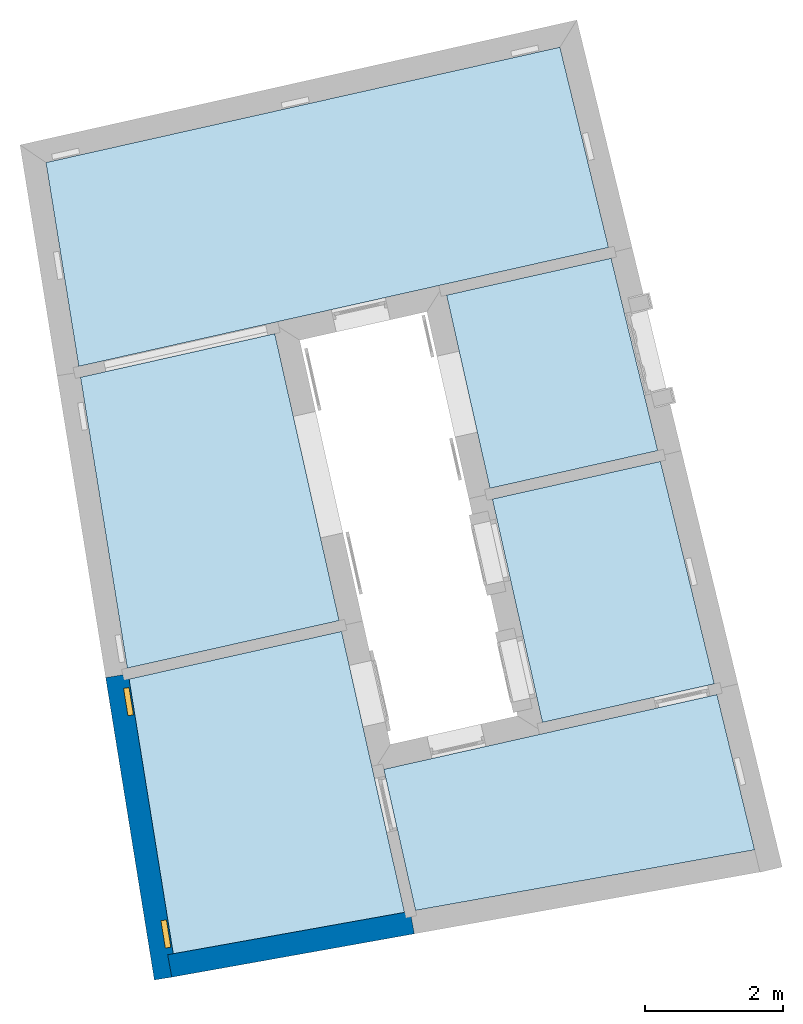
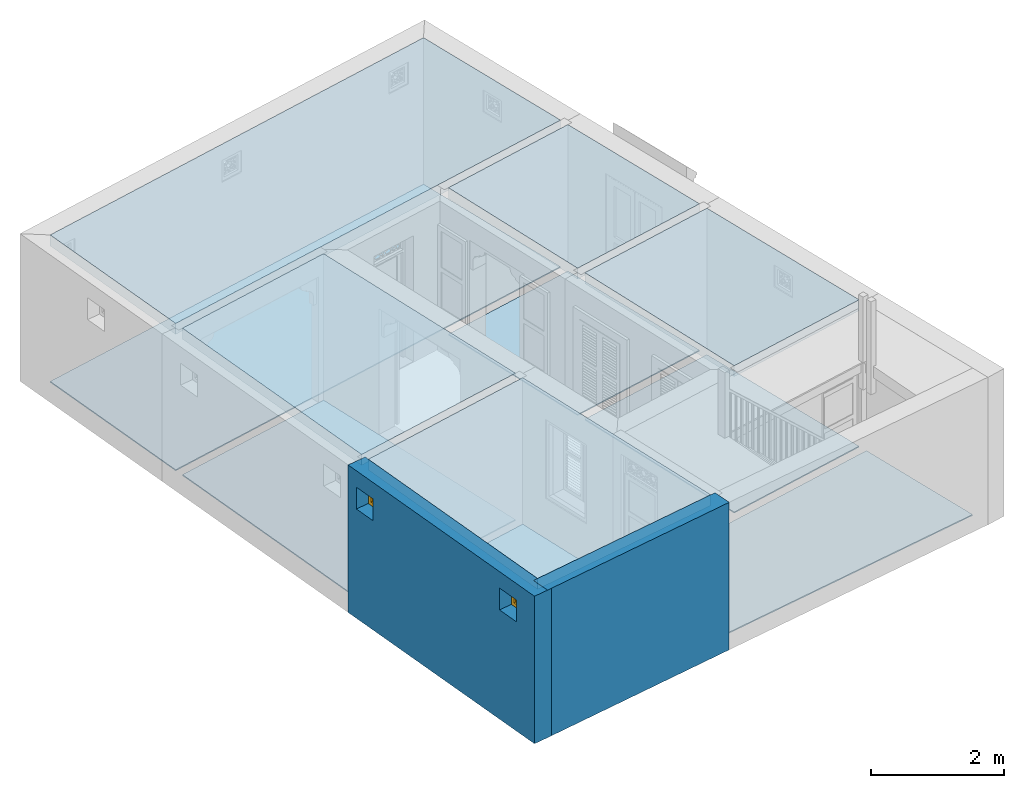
# One storey, part 1 of 13: 11 slabs, 2 walls, 2 windows, 2 openings.
"""IFC4 building model written with IfcOpenShell, lengths in metres."""

from ifc_helpers import new_model, si_unit, frame, origin, origin_with_axes, place, context, subcontext, project, spatial, polyline, outline, extrude, faceted_brep, source, transform, mapped, material, layer, layer_set, layer_usage, type_object, type_shapes, element, fill, save


model = new_model("IFC4")

# Units and contexts
model_context = context("Model", 3, world=origin_with_axes())
body_context = subcontext(model_context, "Body", "Model", "MODEL_VIEW")
ifc_project = project(units=[si_unit("PLANEANGLEUNIT", "RADIAN"), si_unit("MASSUNIT", "GRAM", prefix="KILO"), si_unit("FORCEUNIT", "NEWTON", prefix="KILO"), si_unit("LENGTHUNIT", "METRE"), si_unit("AREAUNIT", "SQUARE_METRE"), si_unit("VOLUMEUNIT", "CUBIC_METRE")], contexts=[model_context, model_context])

# Site, building, storey
site_placement = place(None, origin_with_axes())
site = spatial("IfcSite", under=ifc_project, at=site_placement, Name="Site plot-10", CompositionType="ELEMENT")
building_placement = place(None, origin_with_axes())
building = spatial("IfcBuilding", under=site, at=building_placement, Name="Building plot-10", CompositionType="ELEMENT")
storey_placement = place(None, origin_with_axes())
storey = spatial("IfcBuildingStorey", under=building, at=storey_placement, Name="plot-10 0", CompositionType="ELEMENT", Elevation=0.0)

# Slabs
slab_1_placement = place(storey_placement, frame((-19.1238204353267, 17.6396673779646, 2.5)))
element("IfcSlab", 1, at=slab_1_placement, inside=storey, Name="My Slab", ObjectType="Slab", PredefinedType="FLOOR", context=body_context, shape_type="SweptSolid", body=[
    extrude(outline(polyline([(0.0, 0.0), (0.626059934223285, -2.79032100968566), (3.05138066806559, -2.24615561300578), (2.3773217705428, 0.533395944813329), (0.0, 0.0)])), origin_with_axes(), (0.0, 0.0, 1.0), 0.2),
])
slab_2_placement = place(storey_placement, frame((-19.1238204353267, 17.6396673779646, 0.0)))
element("IfcSlab", 2, at=slab_2_placement, inside=storey, Name="My Slab", ObjectType="Slab", PredefinedType="FLOOR", context=body_context, shape_type="SweptSolid", body=[
    extrude(outline(polyline([(0.0, 0.0), (0.626059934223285, -2.79032100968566), (3.05138066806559, -2.24615561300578), (2.3773217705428, 0.533395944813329), (0.0, 0.0)])), origin_with_axes(), (0.0, 0.0, 1.0), 0.02),
])
slab_3_placement = place(storey_placement, frame((-18.4627324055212, 14.6932277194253, 2.5)))
element("IfcSlab", 3, at=slab_3_placement, inside=storey, Name="My Slab", ObjectType="Slab", PredefinedType="FLOOR", context=body_context, shape_type="SweptSolid", body=[
    extrude(outline(polyline([(0.0, 0.0), (0.723864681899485, -3.22623237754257), (3.20736844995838, -2.66901254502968), (2.4280062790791, 0.544767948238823), (0.0, 0.0)])), origin_with_axes(), (0.0, 0.0, 1.0), 0.2),
])
slab_4_placement = place(storey_placement, frame((-18.4627324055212, 14.6932277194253, 0.0)))
element("IfcSlab", 4, at=slab_4_placement, inside=storey, Name="My Slab", ObjectType="Slab", PredefinedType="FLOOR", context=body_context, shape_type="SweptSolid", body=[
    extrude(outline(polyline([(0.0, 0.0), (0.723864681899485, -3.22623237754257), (3.20736844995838, -2.66901254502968), (2.4280062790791, 0.544767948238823), (0.0, 0.0)])), origin_with_axes(), (0.0, 0.0, 1.0), 0.02),
])
slab_5_placement = place(storey_placement, frame((-20.676451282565, 12.9376014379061, 2.5)))
element("IfcSlab", 5, at=slab_5_placement, inside=storey, Name="My Slab", ObjectType="Slab", PredefinedType="FLOOR", context=body_context, shape_type="SweptSolid", body=[
    extrude(outline(polyline([(0.0, 0.0), (-0.930015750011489, 4.14503842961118), (-3.73667917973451, 3.51531177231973), (-3.06064099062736, -0.686711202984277), (0.0, 0.0)])), origin_with_axes(), (0.0, 0.0, 1.0), 0.2),
])
slab_6_placement = place(storey_placement, frame((-20.676451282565, 12.9376014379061, 0.0)))
element("IfcSlab", 6, at=slab_6_placement, inside=storey, Name="My Slab", ObjectType="Slab", PredefinedType="FLOOR", context=body_context, shape_type="SweptSolid", body=[
    extrude(outline(polyline([(0.0, 0.0), (-0.930015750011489, 4.14503842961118), (-3.73667917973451, 3.51531177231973), (-3.06064099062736, -0.686711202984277), (0.0, 0.0)])), origin_with_axes(), (0.0, 0.0, 1.0), 0.02),
])
slab_7_placement = place(storey_placement, frame((-23.7116299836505, 12.0926253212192, 2.5)))
element("IfcSlab", 7, at=slab_7_placement, inside=storey, Name="My Slab", ObjectType="Slab", PredefinedType="FLOOR", context=body_context, shape_type="SweptSolid", body=[
    extrude(outline(polyline([(0.0, 0.0), (0.638415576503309, -3.96817363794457), (3.98102425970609, -3.37061505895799), (3.07020679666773, 0.688857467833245), (0.0, 0.0)])), origin_with_axes(), (0.0, 0.0, 1.0), 0.2),
])
slab_8_placement = place(storey_placement, frame((-23.7116299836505, 12.0926253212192, 0.0)))
element("IfcSlab", 8, at=slab_8_placement, inside=storey, Name="My Slab", ObjectType="Slab", PredefinedType="FLOOR", context=body_context, shape_type="SweptSolid", body=[
    extrude(outline(polyline([(0.0, 0.0), (0.638415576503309, -3.96817363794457), (3.98102425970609, -3.37061505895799), (3.07020679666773, 0.688857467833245), (0.0, 0.0)])), origin_with_axes(), (0.0, 0.0, 1.0), 0.02),
])
slab_9_placement = place(storey_placement, frame((-20.0303675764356, 10.788877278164, 0.0)))
element("IfcSlab", 9, at=slab_9_placement, inside=storey, Name="My Slab", ObjectType="Slab", PredefinedType="FLOOR", context=body_context, shape_type="SweptSolid", body=[
    extrude(outline(polyline([(0.0, 0.0), (0.45741612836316, -2.03868314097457), (5.35658152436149, -1.16285872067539), (4.81271726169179, 1.07982179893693), (0.0, 0.0)])), origin_with_axes(), (0.0, 0.0, 1.0), 0.02),
])
slab_10_placement = place(storey_placement, frame((-16.7842123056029, 18.3285794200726, 2.5)))
element("IfcSlab", 10, at=slab_10_placement, inside=storey, Name="My Slab", ObjectType="Slab", PredefinedType="FLOOR", context=body_context, shape_type="SweptSolid", body=[
    extrude(outline(polyline([(0.0, 0.0), (-0.70172100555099, 2.89361912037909), (-8.12814598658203, 1.22736383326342), (-7.65438044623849, -1.71740129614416), (0.0, 0.0)])), origin_with_axes(), (0.0, 0.0, 1.0), 0.2),
])
slab_11_placement = place(storey_placement, frame((-16.7842123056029, 18.3285794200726, 0.0)))
element("IfcSlab", 11, at=slab_11_placement, inside=storey, Name="My Slab", ObjectType="Slab", PredefinedType="FLOOR", context=body_context, shape_type="SweptSolid", body=[
    extrude(outline(polyline([(0.0, 0.0), (-0.70172100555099, 2.89361912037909), (-8.12814598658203, 1.22736383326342), (-7.65438044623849, -1.71740129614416), (0.0, 0.0)])), origin_with_axes(), (0.0, 0.0, 1.0), 0.02),
])

# Wall, openings, windows
ifc_material_1 = material(Name="Masonry")
ifc_layer_1 = layer(ifc_material_1, 0.33, ventilated=False)
ifc_layer_set_1 = layer_set([ifc_layer_1], Name="exterior_0.08_0.25")
ifc_layer_usage_1 = layer_usage(ifc_layer_set_1, "AXIS2", "POSITIVE", -0.25)
wall_type_1 = type_object("IfcWallType", Name="exterior_0.08_0.25", PredefinedType="SOLIDWALL", material=ifc_layer_set_1)
wall_1_placement = place(storey_placement, frame((-23.8025668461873, 12.1542108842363, 0.0), z_axis=(0.0, 0.0, 1.0), x_axis=(0.158841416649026, -0.987304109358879, 0.0)))
wall_1 = element("IfcWall", 12, at=wall_1_placement, inside=storey, type_object=wall_type_1, material=ifc_layer_usage_1, Name="exterior", context=body_context, shape_type="SweptSolid", body=[
    extrude(outline(polyline([(9.64131280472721e-16, 0.0799999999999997), (-1.82228109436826e-15, -0.249999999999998), (4.42585217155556, -0.249999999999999), (4.42585217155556, 0.0799999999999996), (9.64131280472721e-16, 0.0799999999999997)])), origin_with_axes(), (0.0, 0.0, 1.0), 2.7),
])
opening_1_placement = place(wall_1_placement, frame((0.195852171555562, 0.0, 2.0)))
opening_1 = element("IfcOpeningElement", 13, at=opening_1_placement, cuts=wall_1, Name="My Opening", ObjectType="Opening", context=body_context, shape_type="SweptSolid", body=[
    extrude(outline(polyline([(0.0, -0.270000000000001), (0.400000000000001, -0.270000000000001), (0.400000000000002, 1.1), (6.66133814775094e-16, 1.1), (0.0, -0.270000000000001)])), origin_with_axes(), (0.0, 0.0, 1.0), 0.4),
])
opening_2_placement = place(wall_1_placement, frame((3.59585217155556, 0.0, 2.0)))
opening_2 = element("IfcOpeningElement", 14, at=opening_2_placement, cuts=wall_1, Name="My Opening", ObjectType="Opening", context=body_context, shape_type="SweptSolid", body=[
    extrude(outline(polyline([(0.0, -0.27), (0.400000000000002, -0.27), (0.400000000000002, 1.1), (1.33226762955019e-15, 1.1), (0.0, -0.27)])), origin_with_axes(), (0.0, 0.0, 1.0), 0.4),
])
window_type = type_object("IfcWindowType", Name="barred_window", PartitioningType="DOUBLE_PANEL_HORIZONTAL", PredefinedType="NOTDEFINED")
shared_shape = source(origin(), body_context, "Body", "Brep", [
    faceted_brep([(0.4, 0.25, 0.4), (0.0, 0.25, 0.4), (0.06, 0.25, 0.34), (0.34, 0.25, 0.34), (0.06, 0.33, 0.34), (0.34, 0.33, 0.34), (0.34, 0.25, 0.06), (0.4, 0.25, 0.0), (0.4, 0.33, 0.4), (0.0, 0.33, 0.4), (0.0, 0.25, 0.0), (0.06, 0.25, 0.06), (0.06, 0.33, 0.06), (0.34, 0.33, 0.06), (0.4, 0.33, 0.0), (0.0, 0.33, 0.0), (0.136152, 0.28, 0.08), (0.08, 0.28, 0.08), (0.06, 0.28, 0.06), (0.136152, 0.28, 0.06), (0.136152, 0.29, 0.08), (0.08, 0.29, 0.08), (0.06, 0.28, 0.136152), (0.08, 0.28, 0.136152), (0.06, 0.29, 0.06), (0.136152, 0.29, 0.06), (0.170294, 0.28, 0.08), (0.170294, 0.28, 0.06), (0.136152, 0.28, 0.136152), (0.136152, 0.29, 0.136152), (0.08, 0.29, 0.136152), (0.06, 0.29, 0.136152), (0.08, 0.28, 0.170294), (0.06, 0.28, 0.170294), (0.170294, 0.29, 0.06), (0.229706, 0.28, 0.08), (0.229706, 0.28, 0.06), (0.156152, 0.28, 0.094142), (0.156152, 0.28, 0.136152), (0.185858, 0.28, 0.123848), (0.185858, 0.29, 0.123848), (0.156152, 0.29, 0.094142), (0.156152, 0.29, 0.136152), (0.229706, 0.29, 0.08), (0.170294, 0.29, 0.08), (0.2, 0.28, 0.109706), (0.2, 0.29, 0.109706), (0.06, 0.29, 0.170294), (0.094142, 0.28, 0.156152), (0.08, 0.28, 0.229706), (0.06, 0.28, 0.229706), (0.229706, 0.29, 0.06), (0.263848, 0.28, 0.08), (0.263848, 0.28, 0.06), (0.156152, 0.28, 0.156152), (0.136152, 0.28, 0.156152), (0.173553, 0.28, 0.136152), (0.173553, 0.29, 0.136152), (0.156152, 0.29, 0.156152), (0.136152, 0.29, 0.156152), (0.094142, 0.29, 0.156152), (0.08, 0.29, 0.170294), (0.06, 0.29, 0.229706), (0.123848, 0.28, 0.185858), (0.109706, 0.28, 0.2), (0.08, 0.29, 0.229706), (0.08, 0.28, 0.263848), (0.06, 0.28, 0.263848), (0.263848, 0.29, 0.06), (0.2, 0.28, 0.13799), (0.214142, 0.28, 0.123848), (0.34, 0.28, 0.06), (0.32, 0.28, 0.08), (0.181838, 0.28, 0.156152), (0.136152, 0.28, 0.173553), (0.156152, 0.28, 0.181838), (0.181838, 0.29, 0.156152), (0.2, 0.29, 0.13799), (0.214142, 0.29, 0.123848), (0.136152, 0.29, 0.173553), (0.156152, 0.29, 0.181838), (0.243848, 0.28, 0.094142), (0.243848, 0.29, 0.094142), (0.263848, 0.28, 0.136152), (0.263848, 0.29, 0.08), (0.263848, 0.29, 0.136152), (0.32, 0.29, 0.08), (0.243848, 0.28, 0.136152), (0.243848, 0.29, 0.136152), (0.06, 0.29, 0.263848), (0.123848, 0.29, 0.185858), (0.13799, 0.28, 0.2), (0.123848, 0.28, 0.214142), (0.109706, 0.29, 0.2), (0.094142, 0.28, 0.243848), (0.08, 0.28, 0.32), (0.06, 0.28, 0.34), (0.34, 0.29, 0.06), (0.218162, 0.28, 0.156152), (0.226447, 0.28, 0.136152), (0.34, 0.28, 0.229706), (0.32, 0.28, 0.229706), (0.32, 0.28, 0.170294), (0.32, 0.28, 0.136152), (0.218162, 0.29, 0.156152), (0.226447, 0.29, 0.136152), (0.13799, 0.29, 0.2), (0.32, 0.29, 0.136152), (0.08, 0.29, 0.263848), (0.06, 0.29, 0.34), (0.136152, 0.28, 0.226447), (0.156152, 0.28, 0.218162), (0.094142, 0.29, 0.243848), (0.123848, 0.29, 0.214142), (0.136152, 0.28, 0.243848), (0.136152, 0.28, 0.263848), (0.08, 0.29, 0.32), (0.136152, 0.28, 0.34), (0.136152, 0.28, 0.32), (0.34, 0.29, 0.229706), (0.243848, 0.28, 0.156152), (0.263848, 0.28, 0.156152), (0.34, 0.28, 0.263848), (0.32, 0.28, 0.263848), (0.32, 0.29, 0.229706), (0.32, 0.29, 0.170294), (0.290294, 0.28, 0.2), (0.276152, 0.28, 0.185858), (0.305858, 0.28, 0.156152), (0.243848, 0.29, 0.156152), (0.263848, 0.29, 0.156152), (0.305858, 0.29, 0.156152), (0.276152, 0.29, 0.185858), (0.290294, 0.29, 0.2), (0.136152, 0.29, 0.34), (0.136152, 0.29, 0.226447), (0.156152, 0.29, 0.218162), (0.156152, 0.28, 0.243848), (0.136152, 0.29, 0.243848), (0.156152, 0.28, 0.263848), (0.136152, 0.29, 0.263848), (0.136152, 0.29, 0.32), (0.170294, 0.28, 0.32), (0.170294, 0.28, 0.34), (0.34, 0.29, 0.263848), (0.243848, 0.28, 0.181838), (0.263848, 0.28, 0.173553), (0.34, 0.28, 0.34), (0.32, 0.28, 0.32), (0.305858, 0.28, 0.243848), (0.276152, 0.28, 0.214142), (0.26201, 0.28, 0.2), (0.243848, 0.29, 0.181838), (0.263848, 0.29, 0.173553), (0.26201, 0.29, 0.2), (0.276152, 0.29, 0.214142), (0.32, 0.29, 0.263848), (0.170294, 0.29, 0.34), (0.156152, 0.29, 0.243848), (0.173553, 0.28, 0.263848), (0.181838, 0.28, 0.243848), (0.156152, 0.28, 0.305858), (0.229706, 0.28, 0.32), (0.229706, 0.28, 0.34), (0.34, 0.29, 0.34), (0.263848, 0.28, 0.34), (0.263848, 0.28, 0.32), (0.32, 0.29, 0.32), (0.263848, 0.28, 0.263848), (0.263848, 0.28, 0.243848), (0.305858, 0.29, 0.243848), (0.263848, 0.28, 0.226447), (0.243848, 0.28, 0.218162), (0.243848, 0.29, 0.218162), (0.263848, 0.29, 0.226447), (0.156152, 0.29, 0.263848), (0.170294, 0.29, 0.32), (0.229706, 0.29, 0.34), (0.181838, 0.29, 0.243848), (0.173553, 0.29, 0.263848), (0.185858, 0.28, 0.276152), (0.2, 0.28, 0.26201), (0.156152, 0.29, 0.305858), (0.229706, 0.29, 0.32), (0.263848, 0.29, 0.34), (0.263848, 0.29, 0.32), (0.263848, 0.29, 0.263848), (0.243848, 0.28, 0.243848), (0.243848, 0.28, 0.263848), (0.263848, 0.29, 0.243848), (0.243848, 0.29, 0.243848), (0.2, 0.29, 0.26201), (0.185858, 0.29, 0.276152), (0.214142, 0.28, 0.276152), (0.218162, 0.28, 0.243848), (0.226447, 0.28, 0.263848), (0.243848, 0.28, 0.305858), (0.2, 0.28, 0.290294), (0.2, 0.29, 0.290294), (0.243848, 0.29, 0.263848), (0.218162, 0.29, 0.243848), (0.214142, 0.29, 0.276152), (0.226447, 0.29, 0.263848), (0.243848, 0.29, 0.305858)], [[[0, 1, 2, 3]], [[3, 2, 4, 5]], [[3, 6, 7, 0]], [[1, 0, 8, 9]], [[1, 10, 11, 2]], [[2, 11, 12, 4]], [[9, 8, 5, 4]], [[6, 3, 5, 13]], [[6, 11, 10, 7]], [[0, 7, 14, 8]], [[10, 1, 9, 15]], [[11, 6, 13, 12]], [[4, 12, 15, 9]], [[8, 14, 13, 5]], [[7, 10, 15, 14]], [[12, 13, 14, 15]], [[16, 17, 18, 19]], [[17, 16, 20, 21]], [[22, 18, 17, 23]], [[19, 18, 24, 25]], [[26, 16, 19, 27]], [[16, 28, 29, 20]], [[21, 20, 25, 24]], [[23, 17, 21, 30]], [[18, 22, 31, 24]], [[23, 32, 33, 22]], [[27, 19, 25, 34]], [[35, 26, 27, 36]], [[28, 16, 37, 38]], [[37, 39, 40, 41]], [[38, 37, 41, 42]], [[20, 29, 42, 41]], [[26, 35, 43, 44]], [[45, 26, 44, 46]], [[20, 44, 34, 25]], [[28, 23, 30, 29]], [[24, 31, 30, 21]], [[22, 33, 47, 31]], [[48, 32, 23]], [[32, 49, 50, 33]], [[36, 27, 34, 51]], [[39, 37, 26, 45]], [[52, 35, 36, 53]], [[38, 54, 55, 28]], [[39, 56, 57, 40]], [[41, 40, 46, 44]], [[56, 38, 42, 57]], [[58, 42, 29, 59]], [[35, 45, 46, 43]], [[44, 43, 51, 34]], [[23, 28, 55, 48]], [[29, 30, 60, 59]], [[61, 30, 31, 47]], [[33, 50, 62, 47]], [[48, 63, 64, 32]], [[49, 32, 61, 65]], [[49, 66, 67, 50]], [[53, 36, 51, 68]], [[69, 39, 45, 70]], [[53, 71, 72, 52]], [[73, 54, 38, 56]], [[74, 55, 54, 75]], [[56, 39, 69, 73]], [[40, 57, 76, 77]], [[40, 77, 78, 46]], [[58, 76, 57, 42]], [[59, 79, 80, 58]], [[45, 35, 81, 70]], [[43, 46, 78, 82]], [[83, 52, 84, 85]], [[82, 84, 43]], [[52, 72, 86, 84]], [[43, 84, 68, 51]], [[44, 20, 41]], [[70, 81, 82, 78]], [[81, 87, 88, 82]], [[48, 55, 59, 60]], [[61, 60, 30]], [[65, 61, 47, 62]], [[50, 67, 89, 62]], [[63, 48, 60, 90]], [[63, 91, 92, 64]], [[32, 64, 93, 61]], [[64, 49, 65, 93]], [[94, 66, 49]], [[66, 95, 96, 67]], [[71, 53, 68, 97]], [[98, 69, 70, 99]], [[81, 52, 83, 87]], [[72, 71, 100]], [[100, 101, 102]], [[103, 72, 100]], [[100, 102, 103]], [[54, 73, 76, 58]], [[55, 74, 79, 59]], [[75, 54, 58, 80]], [[63, 74, 75, 91]], [[73, 69, 77, 76]], [[77, 104, 105, 78]], [[79, 90, 106, 80]], [[84, 82, 88, 85]], [[103, 83, 85, 107]], [[72, 103, 107, 86]], [[97, 68, 84, 86]], [[99, 70, 78, 105]], [[87, 99, 105, 88]], [[90, 60, 61, 93]], [[108, 65, 62, 89]], [[67, 96, 109, 89]], [[74, 63, 90, 79]], [[110, 92, 91, 111]], [[49, 64, 92, 94]], [[93, 65, 112, 113]], [[94, 114, 115, 66]], [[95, 66, 108, 116]], [[117, 96, 95, 118]], [[100, 71, 97, 119]], [[69, 98, 104, 77]], [[99, 87, 120, 98]], [[87, 83, 121, 120]], [[101, 100, 122, 123]], [[102, 101, 124, 125]], [[121, 83, 103]], [[103, 102, 126]], [[126, 127, 128]], [[128, 121, 103]], [[103, 126, 128]], [[91, 75, 80, 106]], [[88, 105, 104, 129]], [[106, 90, 93, 113]], [[85, 88, 129, 130]], [[107, 85, 130]], [[131, 132, 133]], [[107, 130, 131]], [[133, 125, 107]], [[107, 131, 133]], [[124, 119, 97]], [[97, 86, 107]], [[107, 125, 124]], [[97, 107, 124]], [[108, 112, 65]], [[116, 108, 89, 109]], [[96, 117, 134, 109]], [[92, 110, 135, 113]], [[111, 91, 106, 136]], [[114, 110, 111, 137]], [[94, 92, 113, 112]], [[114, 94, 112, 138]], [[114, 137, 139, 115]], [[66, 115, 140, 108]], [[118, 95, 116, 141]], [[118, 142, 143, 117]], [[122, 100, 119, 144]], [[98, 120, 129, 104]], [[145, 120, 121, 146]], [[122, 147, 148, 123]], [[123, 149, 101]], [[101, 126, 133, 124]], [[126, 102, 125, 133]], [[127, 126, 150, 151]], [[128, 127, 132, 131]], [[121, 128, 131, 130]], [[113, 135, 136, 106]], [[129, 152, 153, 130]], [[133, 132, 154, 155]], [[119, 124, 156, 144]], [[138, 112, 108, 140]], [[109, 134, 141, 116]], [[117, 143, 157, 134]], [[110, 114, 138, 135]], [[137, 111, 136, 158]], [[159, 139, 137, 160]], [[118, 115, 139, 161]], [[115, 118, 141, 140]], [[161, 142, 118]], [[162, 163, 143, 142]], [[147, 122, 144, 164]], [[120, 145, 152, 129]], [[146, 121, 130, 153]], [[146, 127, 151, 145]], [[147, 165, 166, 148]], [[123, 148, 167, 156]], [[149, 123, 168, 169]], [[149, 150, 126, 101]], [[155, 170, 124, 133]], [[151, 150, 171, 172]], [[127, 146, 153, 132]], [[135, 138, 158, 136]], [[132, 153, 152, 154]], [[155, 154, 173, 174]], [[170, 156, 124]], [[164, 144, 156, 167]], [[158, 138, 140, 175]], [[176, 141, 134, 157]], [[143, 163, 177, 157]], [[160, 137, 158, 178]], [[139, 159, 179, 175]], [[180, 159, 160, 181]], [[161, 139, 175, 182]], [[140, 141, 182, 175]], [[166, 165, 163, 162]], [[162, 142, 176, 183]], [[165, 147, 164, 184]], [[145, 151, 154, 152]], [[148, 166, 185, 167]], [[156, 186, 168, 123]], [[187, 169, 168, 188]], [[149, 169, 189, 170]], [[150, 149, 170, 155]], [[171, 150, 155, 174]], [[171, 169, 187, 172]], [[151, 172, 173, 154]], [[189, 174, 173, 190]], [[156, 170, 189, 186]], [[184, 164, 167, 185]], [[175, 179, 178, 158]], [[176, 182, 141]], [[177, 183, 176, 157]], [[163, 165, 184, 177]], [[181, 160, 178, 191]], [[159, 180, 192, 179]], [[180, 161, 182, 192]], [[193, 181, 194, 195]], [[196, 162, 197, 193]], [[180, 197, 142, 161]], [[197, 180, 181, 193]], [[142, 197, 198, 176]], [[162, 196, 166]], [[35, 52, 81]], [[197, 162, 183, 198]], [[185, 166, 168, 186]], [[196, 188, 168, 166]], [[187, 188, 195, 194]], [[169, 171, 174, 189]], [[172, 187, 190, 173]], [[189, 190, 199, 186]], [[184, 185, 183, 177]], [[179, 192, 191, 178]], [[176, 198, 192, 182]], [[194, 181, 191, 200]], [[191, 192, 198, 201]], [[26, 37, 16]], [[193, 195, 202, 201]], [[196, 193, 201, 203]], [[191, 201, 202, 200]], [[183, 203, 201, 198]], [[188, 196, 203, 199]], [[203, 183, 185]], [[199, 203, 185, 186]], [[195, 188, 199, 202]], [[187, 194, 200, 190]], [[199, 190, 200, 202]]]),
])
type_shapes(window_type, [shared_shape])
window_1_placement = place(storey_placement, frame((-24.0380295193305, 11.9179580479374, 2.0), z_axis=(0.0, 0.0, 1.0), x_axis=(0.0635365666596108, -0.394921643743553, 0.0)))
window_1 = element("IfcWindow", 15, at=window_1_placement, inside=storey, type_object=window_type, Name="bedroom street window", OverallHeight=0.4, OverallWidth=0.4, context=body_context, shape_type="MappedRepresentation", body=[
    mapped(shared_shape, transform((0.0, 0.0, 0.0), scale=1.0)),
])
fill(opening_1, window_1)
window_2_placement = place(storey_placement, frame((-23.4979687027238, 8.5611240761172, 2.0), z_axis=(0.0, 0.0, 1.0), x_axis=(0.0635365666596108, -0.394921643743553, 0.0)))
window_2 = element("IfcWindow", 16, at=window_2_placement, inside=storey, type_object=window_type, Name="bedroom street window", OverallHeight=0.4, OverallWidth=0.4, context=body_context, shape_type="MappedRepresentation", body=[
    mapped(shared_shape, transform((0.0, 0.0, 0.0), scale=1.0)),
])
fill(opening_2, window_2)

# Wall
ifc_material_2 = material(Name="Masonry")
ifc_layer_2 = layer(ifc_material_2, 0.33, ventilated=False)
ifc_layer_set_2 = layer_set([ifc_layer_2], Name="party_0.08_0.25")
ifc_layer_usage_2 = layer_usage(ifc_layer_set_2, "AXIS2", "POSITIVE", -0.25)
wall_type_2 = type_object("IfcWallType", Name="party_0.08_0.25", PredefinedType="SOLIDWALL", material=ifc_layer_set_2)
wall_2_placement = place(storey_placement, frame((-23.1392685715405, 8.03137487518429, 0.0), z_axis=(0.0, 0.0, 1.0), x_axis=(0.984393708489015, 0.175980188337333, 0.0)))
element("IfcWall", 17, at=wall_2_placement, inside=storey, type_object=wall_type_2, material=ifc_layer_usage_2, Name="party", context=body_context, shape_type="SweptSolid", body=[
    extrude(outline(polyline([(1.29243565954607e-16, 0.0800000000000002), (1.81841538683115e-16, -0.25), (3.56058843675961, -0.25), (3.56058843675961, 0.0800000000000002), (1.29243565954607e-16, 0.0800000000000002)])), origin_with_axes(), (0.0, 0.0, 1.0), 2.7),
])

save(model, "model.ifc")
